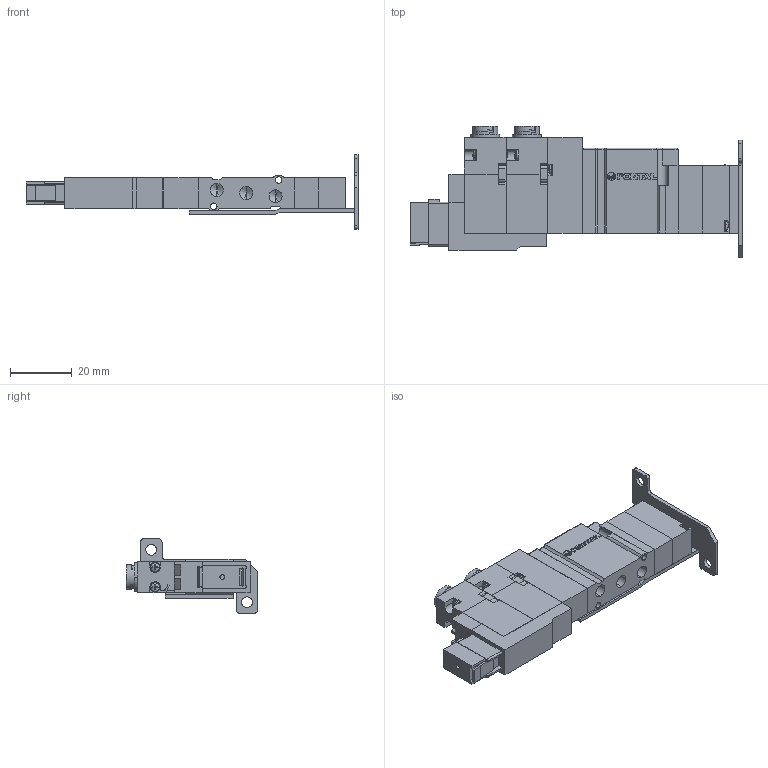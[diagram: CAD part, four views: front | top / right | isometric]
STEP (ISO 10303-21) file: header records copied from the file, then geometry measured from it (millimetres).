
FILE_DESCRIPTION (( 'STEP AP203' ), '1' );
FILE_NAME ('A05FD(E¡BO)35#-BF-#-#-E.STEP', '2016-02-04T01:49:55', ( 'Sam Lin' ), ( '' ), 'SwSTEP 2.0', 'SolidWorks 2013', '' );
FILE_SCHEMA (( 'CONFIG_CONTROL_DESIGN' ));
Length unit declared in the file: metre
Products named in the file (16): A05FS25-2; A05RS25-3; A05FS25-4; A05FD35-1; A05RS25-4; A05FS25-5; A05RS25-5; A05FD(E、O)35#-BF-#-#-E; A05RS25-6; DC24-A05F-1; DC24-A05G-3; A05RS25-1; DC24-A05F-2; ISO 7045 - M1.6 x 10; A05FS25-6; mark-ADEX-A05RS
Assembly tree (28 placements, depth 2):
  A05FD(E、O)35#-BF-#-#-E
    A05RS25-1
    ISO 7045 - M1.6 x 10  x8
    mark-ADEX-A05RS
    A05RS25-3  x2
    A05RS25-4  x2
    A05RS25-5  x2
    A05RS25-6  x4
    DC24-A05F-1
    DC24-A05G-3
    DC24-A05F-2
    A05FS25-6
    A05FS25-2
    A05FS25-4
    A05FD35-1
    A05FS25-5
Bounding box: 107.5 x 42.6 x 24 mm (x, y, z)
Volume: 28032 mm3; surface area: 20120 mm2
Topology: 36 solids, 36 shells, 939 faces, 2403 edges, 1528 vertices
Faces by surface type: plane 596, cylinder 191, cone 86, bspline 66
Entity records: 18101 total; most frequent: CARTESIAN_POINT 3524, ORIENTED_EDGE 2608, DIRECTION 2556, EDGE_CURVE 1304, VECTOR 950, LINE 950, VERTEX_POINT 855, AXIS2_PLACEMENT_3D 803
